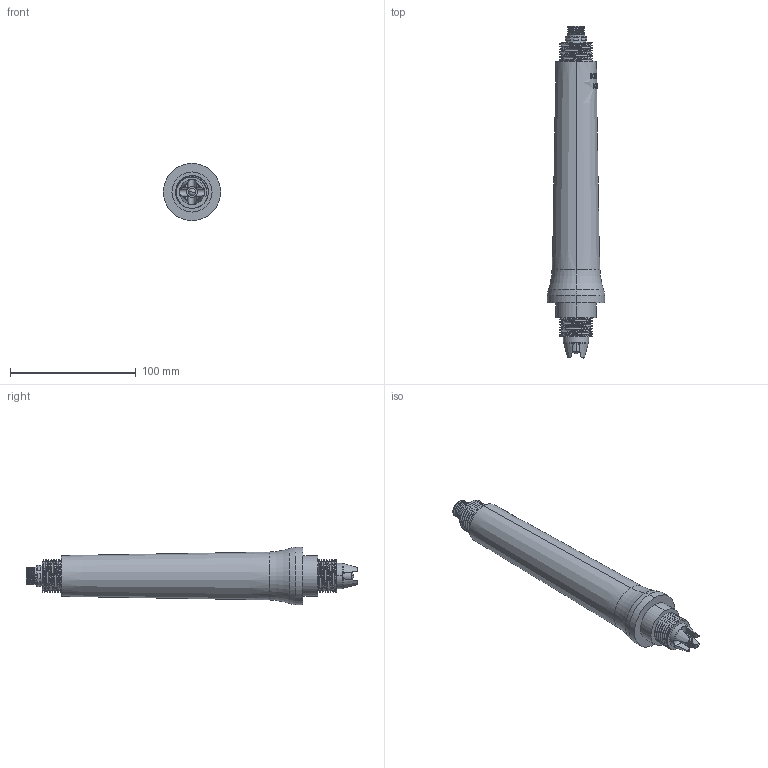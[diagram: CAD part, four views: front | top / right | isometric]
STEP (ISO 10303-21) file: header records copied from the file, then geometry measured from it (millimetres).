
FILE_DESCRIPTION((''),'2;1');
FILE_NAME('ASM0003_ASM','2025-12-26T13:35:15',('28740194'),(''),'CREO PARAMETRIC BY PTC INC, 2024063','CREO PARAMETRIC BY PTC INC, 2024063','');
FILE_SCHEMA(('CONFIG_CONTROL_DESIGN'));
Length unit declared in the file: millimetre
Products named in the file (6): KWS-790ZZ; 222000; 0001; 0002; 260_ASM; ASM0003_ASM
Assembly tree (6 placements, depth 3):
  ASM0003_ASM
    KWS-790ZZ
    222000
    0001
    260_ASM
      0002
      222000
Bounding box: 45.57 x 264.29 x 45.57 mm (x, y, z)
Volume: 18802.3 mm3; surface area: 35045.3 mm2
Topology: 4 solids, 7 shells, 523 faces, 1446 edges, 961 vertices
Faces by surface type: bspline 354, plane 70, cylinder 69, cone 22, torus 6, sphere 2
Entity records: 24018 total; most frequent: CARTESIAN_POINT 13850, ORIENTED_EDGE 2734, EDGE_CURVE 1379, DIRECTION 975, B_SPLINE_CURVE_WITH_KNOTS 947, VERTEX_POINT 919, EDGE_LOOP 527, FACE_OUTER_BOUND 498
